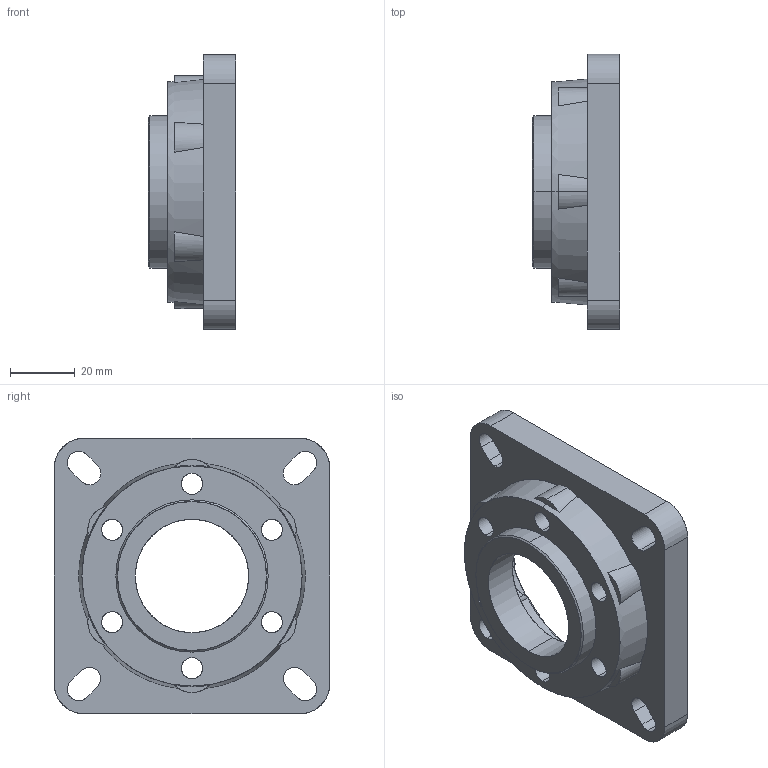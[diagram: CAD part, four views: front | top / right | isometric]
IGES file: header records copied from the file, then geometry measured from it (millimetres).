
Start section: SolidWorks IGES file using analytic representation for surfaces
Global section: file name: C:\PDF\庋.803-5-23.0.0.1.IGS,; native system: SolidWorks 2016; preprocessor: SolidWorks 2016; author: Diman; date: 210306.194838; units: millimetre
Bounding box: 27 x 85 x 85 mm (x, y, z)
Surface area: 24262.8 mm2 (no closed solid volume)
Topology: 0 solids, 0 shells, 92 faces, 2032 edges, 2032 vertices
Faces by surface type: revolution 68, bspline 24
